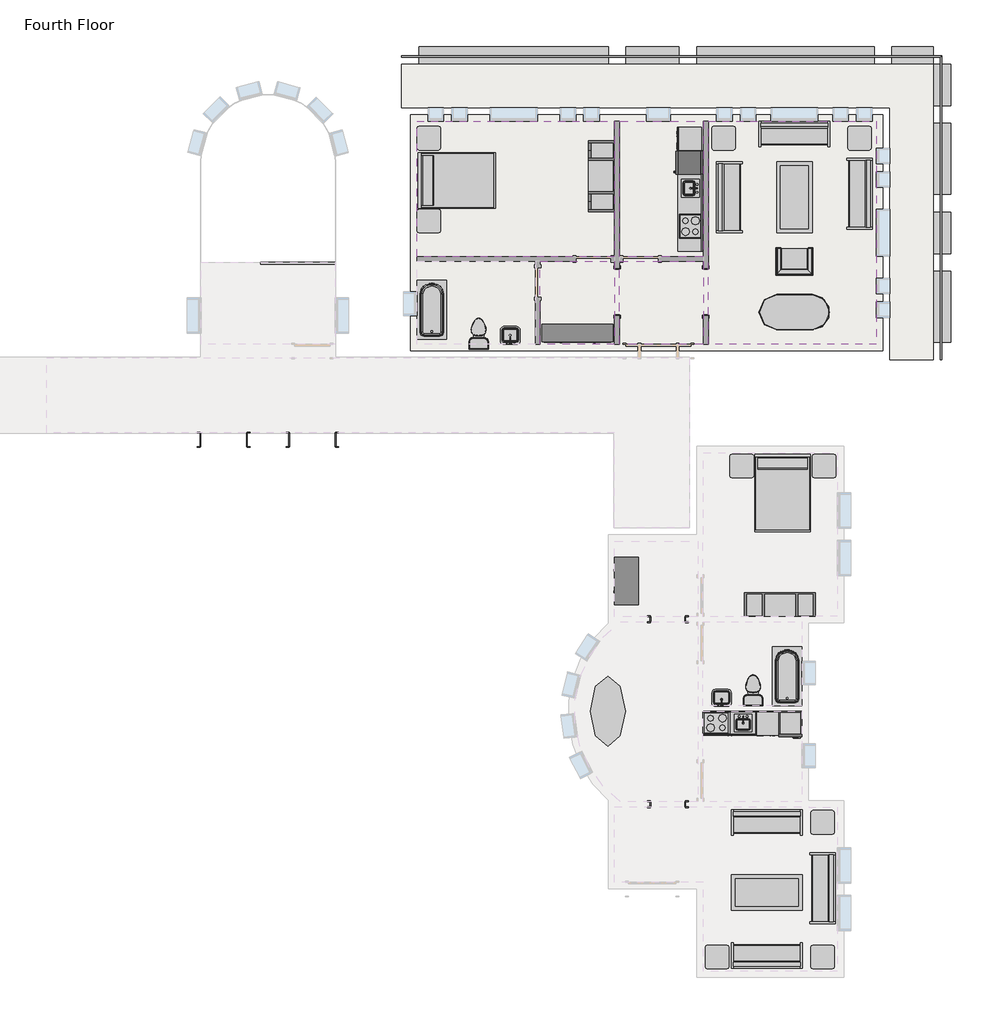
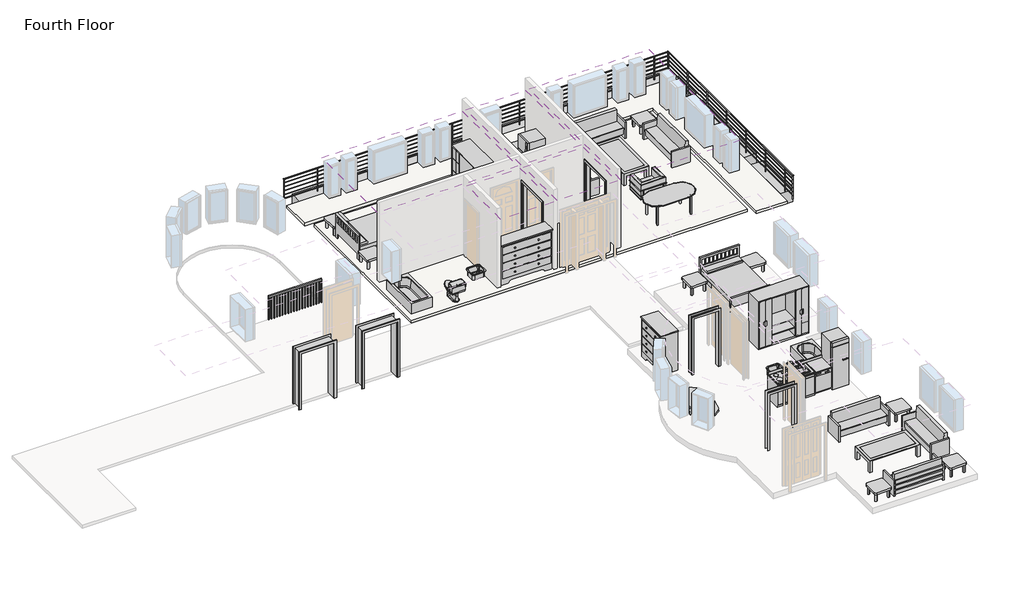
# One storey, part 2 of 2: 28 furniture elements, 14 proxies, 8 flow terminals, 5 coverings, 2 beams, 2 railings, 2 slabs.
"""IFC4 building model written with IfcOpenShell, lengths in millimetres."""

from ifc_helpers import new_model, si_unit, frame, origin, place, context, project, spatial, polyline, outline, extrude, transform, mapped, element, save
from components import proxy_dfcd9396, proxy_3c49123c, proxy_7a545507, m_cook_top_4_unit2_0615_x_500mm_249f3515, m_dishwasher_610_x_610_x_875mm_54ecfc4c, m_kitchenette_medium_1372mm_e05c6bec, m_passage_opening_cased_0915_x_2134mm_b7ef4dee, m_refrigerator_600_x_660mm_a466bf94, proxy_f44482cc, proxy_c3589814, proxy_ec3341c2, m_sink_kitchen_island_450_x_450mm_f969cf2d, m_sink_vanity_square_500_x_440mm_1e229b74, m_toilet_domestic_3d_m_toilet_domestic_3d_5cb52bd4, m_toilet_domestic_3d_m_toilet_domestic_3d_183bbd19, m_tub_rectangular_3d_m_tub_rectangular_3d_3da3e62d, flow_terminal_41332a36, flow_terminal_62a433f7, toilet_domestic_3d_toilet_domestic_3d_f7549cf7, tub_rectangular_3d_tub_rectangular_3d_15036965, furniture_096e7f55, chair_corbu_chair_corbu_2764bdef, furniture_6db689a5, furniture_7c473f12, furniture_cf0b6580, m_counter_top_w_sink_hole_600mm_depth_08c4f679, m_dresser_1220_x_1525_x_0610mm_18e1f140, m_entertainment_center_1830_x_1830_x_0610mm_f77a9b93, m_sofa_1830mm_f9e8a66b, m_table_coffee_0915_x_1830_x_0457mm_134cd960, m_table_ellipse_1800_x_900mm_fd46d5a5, m_table_end_0610_x_0160mm_cb6ea12e, furniture_a4ffab56, furniture_cd93a443, furniture_2c34a4f9, furniture_3a588284, handrail_pipe_d2b3d8b8, handrail_rectangular_e25e5a2f

model = new_model("IFC4")

# Units and contexts
model_context = context("Model", 3, world=origin())
ifc_project = project(units=[si_unit("LENGTHUNIT", "METRE", prefix="MILLI")], contexts=[model_context])

# Site, building, storey
site = spatial("IfcSite", under=ifc_project)
building = spatial("IfcBuilding", under=site)
storey = spatial("IfcBuildingStorey", under=building, Name="Fourth Floor", Elevation=9144.0)

# Beams
placement = place(None, origin())
element("IfcBeam", 1, ObjectType="Concrete-Rectangular Beam : 18 x 18", at=placement, inside=storey, context=model_context, shape_type="SweptSolid", body=[
    extrude(outline(polyline([(2093.9410437, 12198.8316867), (2093.9410437, 11741.6316867), (1027.1410437, 11741.6316867), (1027.1410437, 12198.8316867), (2093.9410437, 12198.8316867)])), frame((0.0, 0.0, 8686.8), z_axis=(0.0, 0.0, 1.0), x_axis=(1.0, 0.0, 0.0)), (0.0, 0.0, 1.0), 457.2),
    extrude(outline(polyline([(-11164.8589563, 11741.6316867), (-11164.8589563, 12198.8316867), (-6288.0589563, 12198.8316867), (-6288.0589563, 11741.6316867), (-11164.8589563, 11741.6316867)])), frame((0.0, 0.0, 8686.8), z_axis=(0.0, 0.0, 1.0), x_axis=(1.0, 0.0, 0.0)), (0.0, 0.0, 1.0), 457.2),
    extrude(outline(polyline([(569.9410437, 12198.8316867), (569.9410437, 11741.6316867), (-4002.0589563, 11741.6316867), (-4002.0589563, 12198.8316867), (569.9410437, 12198.8316867)])), frame((0.0, 0.0, 8686.8), z_axis=(0.0, 0.0, 1.0), x_axis=(1.0, 0.0, 0.0)), (0.0, 0.0, 1.0), 457.2),
    extrude(outline(polyline([(-4459.2589563, 12198.8316867), (-4459.2589563, 11741.6316867), (-5830.8589563, 11741.6316867), (-5830.8589563, 12198.8316867), (-4459.2589563, 12198.8316867)])), frame((0.0, 0.0, 8686.8), z_axis=(0.0, 0.0, 1.0), x_axis=(1.0, 0.0, 0.0)), (0.0, 0.0, 1.0), 457.2),
])
element("IfcBeam", 2, ObjectType="Concrete-Rectangular Beam : 18 x 18", at=placement, inside=storey, context=model_context, shape_type="SweptSolid", body=[
    extrude(outline(polyline([(2093.9410437, 11741.6316867), (2551.1410437, 11741.6316867), (2551.1410437, 10674.8316867), (2093.9410437, 10674.8316867), (2093.9410437, 11741.6316867)])), frame((0.0, 0.0, 8686.8), z_axis=(0.0, 0.0, 1.0), x_axis=(1.0, 0.0, 0.0)), (0.0, 0.0, 1.0), 457.2),
    extrude(outline(polyline([(2551.1410437, 4578.8316867), (2093.9410437, 4578.8316867), (2093.9410437, 6407.6316867), (2551.1410437, 6407.6316867), (2551.1410437, 4578.8316867)])), frame((0.0, 0.0, 8686.8), z_axis=(0.0, 0.0, 1.0), x_axis=(1.0, 0.0, 0.0)), (0.0, 0.0, 1.0), 457.2),
    extrude(outline(polyline([(2093.9410437, 10217.6316867), (2551.1410437, 10217.6316867), (2551.1410437, 8388.8316867), (2093.9410437, 8388.8316867), (2093.9410437, 10217.6316867)])), frame((0.0, 0.0, 8686.8), z_axis=(0.0, 0.0, 1.0), x_axis=(1.0, 0.0, 0.0)), (0.0, 0.0, 1.0), 457.2),
    extrude(outline(polyline([(2093.9410437, 7931.6316867), (2551.1410437, 7931.6316867), (2551.1410437, 6864.8316867), (2093.9410437, 6864.8316867), (2093.9410437, 7931.6316867)])), frame((0.0, 0.0, 8686.8), z_axis=(0.0, 0.0, 1.0), x_axis=(1.0, 0.0, 0.0)), (0.0, 0.0, 1.0), 457.2),
])

# Proxies
proxy_shape = proxy_dfcd9396(model_context)
element("IfcBuildingElementProxy", 3, Name="Cook Top-4 Unit2 : 22\" x 20\"", ObjectType="Cook Top-4 Unit2 : 22\" x 20\"", at=placement, inside=storey, context=model_context, shape_type="MappedRepresentation", body=[
    mapped(proxy_shape, transform((-4167.1589563, 7568.5224391, 9144.0), x_axis=(0.0, 1.0000000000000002, 0.0), y_axis=(-1.0000000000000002, 0.0, 0.0), z_axis=(0.0, 0.0, 1.0))),
])
proxy_2_shape = proxy_3c49123c(model_context)
element("IfcBuildingElementProxy", 4, Name="Dishwasher : 24\" x 24\" x 34\"", ObjectType="Dishwasher : 24\" x 24\" x 34\"", at=placement, inside=storey, context=model_context, shape_type="MappedRepresentation", body=[
    mapped(proxy_2_shape, transform((-4459.0085211, 9434.1049706, 9144.0), x_axis=(0.0, 1.0000000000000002, 0.0), y_axis=(-1.0000000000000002, 0.0, 0.0), z_axis=(0.0, 0.0, 1.0))),
])
proxy_3_shape = proxy_7a545507(model_context)
element("IfcBuildingElementProxy", 5, Name="Kitchenette - Medium : 8'6\"", ObjectType="Kitchenette - Medium : 8'6\"", at=placement, inside=storey, context=model_context, shape_type="MappedRepresentation", body=[
    mapped(proxy_3_shape, transform((-3862.3589563, 8197.4847342, 9144.0), x_axis=(0.0, 1.0000000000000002, 0.0), y_axis=(-1.0000000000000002, 0.0, 0.0), z_axis=(0.0, 0.0, 1.0))),
])
m_cook_top_4_unit2_0615_x_500mm_shape = m_cook_top_4_unit2_0615_x_500mm_249f3515(model_context)
element("IfcBuildingElementProxy", 6, Name="M_Cook Top-4 Unit2 : 0615 x 500mm", ObjectType="M_Cook Top-4 Unit2 : 0615 x 500mm", at=placement, inside=storey, context=model_context, shape_type="MappedRepresentation", body=[
    mapped(m_cook_top_4_unit2_0615_x_500mm_shape, transform((-3495.1714563, -5234.2683133, 9144.0), x_axis=(1.0, 0.0, 0.0), y_axis=(0.0, 1.0, 0.0), z_axis=(0.0, 0.0, 1.0))),
])
m_dishwasher_610_x_610_x_875mm_shape = m_dishwasher_610_x_610_x_875mm_54ecfc4c(model_context)
element("IfcBuildingElementProxy", 7, Name="M_Dishwasher : 610 x 610 x 875mm", ObjectType="M_Dishwasher : 610 x 610 x 875mm", at=placement, inside=storey, context=model_context, shape_type="MappedRepresentation", body=[
    mapped(m_dishwasher_610_x_610_x_875mm_shape, transform((-2579.6889248, -5500.9178781, 9144.0), x_axis=(1.0, 0.0, 0.0), y_axis=(0.0, 1.0, 0.0), z_axis=(0.0, 0.0, 1.0))),
])
m_kitchenette_medium_1372mm_shape = m_kitchenette_medium_1372mm_e05c6bec(model_context)
element("IfcBuildingElementProxy", 8, Name="M_Kitchenette - Medium : 1372mm", ObjectType="M_Kitchenette - Medium : 1372mm", at=placement, inside=storey, context=model_context, shape_type="MappedRepresentation", body=[
    mapped(m_kitchenette_medium_1372mm_shape, transform((-3170.9091612, -4929.2683133, 9144.0), x_axis=(1.0, 0.0, 0.0), y_axis=(0.0, 1.0, 0.0), z_axis=(0.0, 0.0, 1.0))),
])
m_passage_opening_cased_0915_x_2134mm_shape = m_passage_opening_cased_0915_x_2134mm_b7ef4dee(model_context)
element("IfcBuildingElementProxy", 9, Name="M_Passage Opening-Cased : 0915 x 2134mm", ObjectType="M_Passage Opening-Cased : 0915 x 2134mm", at=placement, inside=storey, context=model_context, shape_type="MappedRepresentation", body=[
    mapped(m_passage_opening_cased_0915_x_2134mm_shape, transform((-4759.560113, -7332.1683133, 9144.0), x_axis=(-1.0, 0.0, 0.0), y_axis=(0.0, -1.0, 0.0), z_axis=(0.0, 0.0, 1.0))),
])
element("IfcBuildingElementProxy", 10, Name="M_Passage Opening-Cased : 0915 x 2134mm", ObjectType="M_Passage Opening-Cased : 0915 x 2134mm", at=placement, inside=storey, context=model_context, shape_type="MappedRepresentation", body=[
    mapped(m_passage_opening_cased_0915_x_2134mm_shape, transform((-4759.560113, -2560.1683133, 9144.0), x_axis=(-1.0, 0.0, 0.0), y_axis=(0.0, -1.0, 0.0), z_axis=(0.0, 0.0, 1.0))),
])
m_refrigerator_600_x_660mm_shape = m_refrigerator_600_x_660mm_a466bf94(model_context)
element("IfcBuildingElementProxy", 11, Name="M_Refrigerator : 600 x 660mm", ObjectType="M_Refrigerator : 600 x 660mm", at=placement, inside=storey, context=model_context, shape_type="MappedRepresentation", body=[
    mapped(m_refrigerator_600_x_660mm_shape, transform((-1538.3703137, -5225.4834035, 9144.0), x_axis=(1.0, 0.0, 0.0), y_axis=(0.0, 1.0, 0.0), z_axis=(0.0, 0.0, 1.0))),
])
proxy_4_shape = proxy_f44482cc(model_context)
element("IfcBuildingElementProxy", 12, Name="Opening-Cased : 48\" x 84\"", ObjectType="Opening-Cased : 48\" x 84\"", at=placement, inside=storey, context=model_context, shape_type="MappedRepresentation", body=[
    mapped(proxy_4_shape, transform((-3773.4589563, 5882.4203434, 9144.0), x_axis=(0.0, 1.0, 0.0), y_axis=(-1.0, 0.0, 0.0), z_axis=(0.0, 0.0, 1.0))),
])
element("IfcBuildingElementProxy", 13, Name="Opening-Cased : 48\" x 84\"", ObjectType="Opening-Cased : 48\" x 84\"", at=placement, inside=storey, context=model_context, shape_type="MappedRepresentation", body=[
    mapped(proxy_4_shape, transform((-6059.4589563, 5866.04303, 9144.0), x_axis=(0.0, -1.0, 0.0), y_axis=(1.0, 0.0, 0.0), z_axis=(0.0, 0.0, 1.0))),
])
proxy_5_shape = proxy_c3589814(model_context)
element("IfcBuildingElementProxy", 14, Name="Opening-Cased : 48\" x 84\"", ObjectType="Opening-Cased : 48\" x 84\"", at=placement, inside=storey, context=model_context, shape_type="MappedRepresentation", body=[
    mapped(proxy_5_shape, transform((-16213.360113, 2064.2316867, 9144.0), x_axis=(-1.0, 0.0, 0.0), y_axis=(0.0, -1.0, 0.0), z_axis=(0.0, 0.0, 1.0))),
])
element("IfcBuildingElementProxy", 15, Name="Opening-Cased : 48\" x 84\"", ObjectType="Opening-Cased : 48\" x 84\"", at=placement, inside=storey, context=model_context, shape_type="MappedRepresentation", body=[
    mapped(proxy_5_shape, transform((-13927.360113, 2064.2316867, 9144.0), x_axis=(-1.0, 0.0, 0.0), y_axis=(0.0, -1.0, 0.0), z_axis=(0.0, 0.0, 1.0))),
])
proxy_6_shape = proxy_ec3341c2(model_context)
element("IfcBuildingElementProxy", 16, Name="Refrigerator : 24\" x 25\" LH", ObjectType="Refrigerator : 24\" x 25\" LH", at=placement, inside=storey, context=model_context, shape_type="MappedRepresentation", body=[
    mapped(proxy_6_shape, transform((-4212.8079278, 9200.4724391, 9144.0), x_axis=(0.0, 1.0000000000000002, 0.0), y_axis=(-1.0000000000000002, 0.0, 0.0), z_axis=(0.0, 0.0, 1.0))),
])

# Coverings
element("IfcCovering", 17, ObjectType="GWB on Mtl. Stud", at=placement, inside=storey, context=model_context, shape_type="SweptSolid", body=[
    extrude(outline(polyline([(-11217.2464563, 10270.0191867), (-6122.9589563, 10270.0191867), (-6122.9589563, 6787.0441867), (-11217.2464563, 6787.0441867), (-11217.2464563, 10270.0191867)])), frame((0.0, 0.0, 11734.8), z_axis=(0.0, 0.0, 1.0), x_axis=(1.0, 0.0, 0.0)), (0.0, 0.0, 1.0), 107.95),
])
element("IfcCovering", 18, ObjectType="GWB on Mtl. Stud", at=placement, inside=storey, context=model_context, shape_type="SweptSolid", body=[
    extrude(outline(polyline([(-5995.9589563, 6787.0441867), (-5995.9589563, 10270.0191867), (-3836.9589563, 10270.0191867), (-3836.9589563, 6787.0441867), (-5995.9589563, 6787.0441867)])), frame((0.0, 0.0, 11734.8), z_axis=(0.0, 0.0, 1.0), x_axis=(1.0, 0.0, 0.0)), (0.0, 0.0, 1.0), 107.95),
])
element("IfcCovering", 19, ObjectType="GWB on Mtl. Stud", at=placement, inside=storey, context=model_context, shape_type="SweptSolid", body=[
    extrude(outline(polyline([(-3709.9589563, 4526.4441867), (-3709.9589563, 10270.0191867), (622.3285437, 10270.0191867), (622.3285437, 4526.4441867), (-3709.9589563, 4526.4441867)])), frame((0.0, 0.0, 11734.8), z_axis=(0.0, 0.0, 1.0), x_axis=(1.0, 0.0, 0.0)), (0.0, 0.0, 1.0), 107.95),
])
element("IfcCovering", 20, ObjectType="GWB on Mtl. Stud", at=placement, inside=storey, context=model_context, shape_type="SweptSolid", body=[
    extrude(outline(polyline([(-3836.9589563, 4526.4441867), (-5995.9589563, 4526.4441867), (-5995.9589563, 6660.0441867), (-3836.9589563, 6660.0441867), (-3836.9589563, 4526.4441867)])), frame((0.0, 0.0, 11734.8), z_axis=(0.0, 0.0, 1.0), x_axis=(1.0, 0.0, 0.0)), (0.0, 0.0, 1.0), 107.95),
])
element("IfcCovering", 21, ObjectType="GWB on Mtl. Stud", at=placement, inside=storey, context=model_context, shape_type="SweptSolid", body=[
    extrude(outline(polyline([(-6122.9589563, 4526.4441867), (-8042.2464563, 4526.4441867), (-8042.2464563, 6660.0441867), (-6122.9589563, 6660.0441867), (-6122.9589563, 4526.4441867)])), frame((0.0, 0.0, 11734.8), z_axis=(0.0, 0.0, 1.0), x_axis=(1.0, 0.0, 0.0)), (0.0, 0.0, 1.0), 107.95),
])

# Flow terminals
m_sink_kitchen_island_450_x_450mm_shape = m_sink_kitchen_island_450_x_450mm_f969cf2d(model_context)
element("IfcFlowTerminal", 22, ObjectType="M_Sink Kitchen-Island : 450 x 450mm", at=placement, inside=storey, context=model_context, shape_type="MappedRepresentation", body=[
    mapped(m_sink_kitchen_island_450_x_450mm_shape, transform((-2824.8606969, -5236.6137144, 9144.0), x_axis=(1.0, 0.0, 0.0), y_axis=(0.0, 1.0, 0.0), z_axis=(0.0, 0.0, 1.0))),
])
m_sink_vanity_square_500_x_440mm_shape = m_sink_vanity_square_500_x_440mm_1e229b74(model_context)
element("IfcFlowTerminal", 23, ObjectType="M_Sink Vanity-Square : 500 x 440mm", at=placement, inside=storey, context=model_context, shape_type="MappedRepresentation", body=[
    mapped(m_sink_vanity_square_500_x_440mm_shape, transform((-3349.2572157, -4621.7229122, 9144.0), x_axis=(-1.0, 0.0, 0.0), y_axis=(0.0, -1.0, 0.0), z_axis=(0.0, 0.0, 1.0))),
])
m_toilet_domestic_3d_m_toilet_domestic_3d_shape = m_toilet_domestic_3d_m_toilet_domestic_3d_5cb52bd4(model_context)
m_toilet_domestic_3d_m_toilet_domestic_3d_2_shape = m_toilet_domestic_3d_m_toilet_domestic_3d_183bbd19(model_context)
element("IfcFlowTerminal", 24, ObjectType="M_Toilet-Domestic-3D : M_Toilet-Domestic-3D", at=placement, inside=storey, context=model_context, shape_type="MappedRepresentation", body=[
    mapped(m_toilet_domestic_3d_m_toilet_domestic_3d_shape, transform((-2552.025429, -4299.072286, 9144.0), x_axis=(-1.0, 0.0, 0.0), y_axis=(0.0, -1.0, 0.0), z_axis=(0.0, 0.0, 1.0))),
    mapped(m_toilet_domestic_3d_m_toilet_domestic_3d_2_shape, transform((-2552.025429, -4299.072286, 9144.0), x_axis=(-1.0, 0.0, 0.0), y_axis=(0.0, -1.0, 0.0), z_axis=(0.0, 0.0, 1.0))),
])
m_tub_rectangular_3d_m_tub_rectangular_3d_shape = m_tub_rectangular_3d_m_tub_rectangular_3d_3da3e62d(model_context)
element("IfcFlowTerminal", 25, ObjectType="M_Tub-Rectangular-3D : M_Tub-Rectangular-3D", at=placement, inside=storey, context=model_context, shape_type="MappedRepresentation", body=[
    mapped(m_tub_rectangular_3d_m_tub_rectangular_3d_shape, transform((-1117.5714563, -3683.1653446, 9144.0), x_axis=(0.0, 1.0, 0.0), y_axis=(-1.0, 0.0, 0.0), z_axis=(0.0, 0.0, 1.0))),
])
flow_terminal_shape = flow_terminal_41332a36(model_context)
element("IfcFlowTerminal", 26, ObjectType="Sink Kitchen-Island : 18\" x 18\"", at=placement, inside=storey, context=model_context, shape_type="MappedRepresentation", body=[
    mapped(flow_terminal_shape, transform((-4169.5043574, 8530.7331986, 9129.6), x_axis=(0.0, 1.0000000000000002, 0.0), y_axis=(-1.0000000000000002, 0.0, 0.0), z_axis=(0.0, 0.0, 1.0))),
])
flow_terminal_2_shape = flow_terminal_62a433f7(model_context)
element("IfcFlowTerminal", 27, ObjectType="Sink Vanity-Square : 20\" x 18\"", at=placement, inside=storey, context=model_context, shape_type="MappedRepresentation", body=[
    mapped(flow_terminal_2_shape, transform((-8801.2572158, 4706.5895878, 9144.0), x_axis=(-1.0, 0.0, 0.0), y_axis=(0.0, -1.0, 0.0), z_axis=(0.0, 0.0, 1.0))),
])
toilet_domestic_3d_toilet_domestic_3d_shape = toilet_domestic_3d_toilet_domestic_3d_f7549cf7(model_context)
element("IfcFlowTerminal", 28, ObjectType="Toilet-Domestic-3D : Toilet-Domestic-3D", at=placement, inside=storey, context=model_context, shape_type="MappedRepresentation", body=[
    mapped(toilet_domestic_3d_toilet_domestic_3d_shape, transform((-9629.7464563, 4894.7441867, 9144.0), x_axis=(-1.0, 0.0, 0.0), y_axis=(0.0, -1.0, 0.0), z_axis=(0.0, 0.0, 1.0))),
    mapped(m_toilet_domestic_3d_m_toilet_domestic_3d_2_shape, transform((-9629.7464563, 4894.7441867, 9144.0), x_axis=(-1.0, 0.0, 0.0), y_axis=(0.0, -1.0, 0.0), z_axis=(0.0, 0.0, 1.0))),
])
tub_rectangular_3d_tub_rectangular_3d_shape = tub_rectangular_3d_tub_rectangular_3d_15036965(model_context)
element("IfcFlowTerminal", 29, ObjectType="Tub-Rectangular-3D : Tub-Rectangular-3D", at=placement, inside=storey, context=model_context, shape_type="MappedRepresentation", body=[
    mapped(tub_rectangular_3d_tub_rectangular_3d_shape, transform((-11393.4589563, 5765.6346554, 9144.0), x_axis=(0.0, 1.0, 0.0), y_axis=(-1.0, 0.0, 0.0), z_axis=(0.0, 0.0, 1.0))),
])

# Furniture
furniture_shape = furniture_096e7f55(model_context)
element("IfcFurniture", 30, ObjectType="Bed-Shaker : Double 56\" x 78\"", at=placement, inside=storey, context=model_context, shape_type="MappedRepresentation", body=[
    mapped(furniture_shape, transform((-11172.0857802, 8763.4816867, 9144.0), x_axis=(0.0, 1.0, 0.0), y_axis=(-1.0, 0.0, 0.0), z_axis=(0.0, 0.0, 1.0))),
])
chair_corbu_chair_corbu_shape = chair_corbu_chair_corbu_2764bdef(model_context)
element("IfcFurniture", 31, ObjectType="Chair-Corbu : Chair-Corbu", at=placement, inside=storey, context=model_context, shape_type="MappedRepresentation", body=[
    mapped(chair_corbu_chair_corbu_shape, transform((-914.0851858, 7126.8212359, 9144.0), x_axis=(-1.0, 0.0, 0.0), y_axis=(0.0, -1.0, 0.0), z_axis=(0.0, 0.0, 1.0))),
])
furniture_2_shape = furniture_6db689a5(model_context)
element("IfcFurniture", 32, ObjectType="Counter Top w Sink Hole : 24\" Depth", at=placement, inside=storey, context=model_context, shape_type="MappedRepresentation", body=[
    mapped(furniture_2_shape, transform((-3862.3589563, 8121.2847342, 9129.6), x_axis=(0.0, 1.0000000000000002, 0.0), y_axis=(-1.0000000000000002, 0.0, 0.0), z_axis=(0.0, 0.0, 1.0))),
])
furniture_3_shape = furniture_7c473f12(model_context)
element("IfcFurniture", 33, ObjectType="Dresser : 72\" x 60\" x 18\"", at=placement, inside=storey, context=model_context, shape_type="MappedRepresentation", body=[
    mapped(furniture_3_shape, transform((-6806.2656965, 5181.7071408, 9144.0), x_axis=(1.0, 0.0, 0.0), y_axis=(0.0, 1.0, 0.0), z_axis=(0.0, 0.0, 1.0))),
])
furniture_4_shape = furniture_cf0b6580(model_context)
element("IfcFurniture", 34, ObjectType="Entertainment Center : 72\" x 72\" x 24\"", at=placement, inside=storey, context=model_context, shape_type="MappedRepresentation", body=[
    mapped(furniture_4_shape, transform((-6021.3589563, 8857.1441867, 9144.0), x_axis=(0.0, -1.0, 0.0), y_axis=(1.0, 0.0, 0.0), z_axis=(0.0, 0.0, 1.0))),
])
element("IfcFurniture", 35, ObjectType="M_Bed-Shaker : 1422 x 1981mm - Double", at=placement, inside=storey, context=model_context, shape_type="MappedRepresentation", body=[
    mapped(furniture_shape, transform((-1770.3214563, 1676.8316867, 9144.0), x_axis=(1.0, 0.0, 0.0), y_axis=(0.0, 1.0, 0.0), z_axis=(0.0, 0.0, 1.0))),
])
m_counter_top_w_sink_hole_600mm_depth_shape = m_counter_top_w_sink_hole_600mm_depth_08c4f679(model_context)
element("IfcFurniture", 36, ObjectType="M_Counter Top w Sink Hole : 600mm Depth", at=placement, inside=storey, context=model_context, shape_type="MappedRepresentation", body=[
    mapped(m_counter_top_w_sink_hole_600mm_depth_shape, transform((-2637.7091612, -4929.2683133, 9144.0), x_axis=(1.0, 0.0, 0.0), y_axis=(0.0, 1.0, 0.0), z_axis=(0.0, 0.0, 1.0))),
])
m_dresser_1220_x_1525_x_0610mm_shape = m_dresser_1220_x_1525_x_0610mm_18e1f140(model_context)
element("IfcFurniture", 37, ObjectType="M_Dresser : 1220 x 1525 x 0610mm", at=placement, inside=storey, context=model_context, shape_type="MappedRepresentation", body=[
    mapped(m_dresser_1220_x_1525_x_0610mm_shape, transform((-5456.0085022, -1844.3615731, 9144.0), x_axis=(0.0, -1.0, 0.0), y_axis=(1.0, 0.0, 0.0), z_axis=(0.0, 0.0, 1.0))),
])
m_entertainment_center_1830_x_1830_x_0610mm_shape = m_entertainment_center_1830_x_1830_x_0610mm_f77a9b93(model_context)
element("IfcFurniture", 38, ObjectType="M_Entertainment center : 1830 x 1830 x 0610mm", at=placement, inside=storey, context=model_context, shape_type="MappedRepresentation", body=[
    mapped(m_entertainment_center_1830_x_1830_x_0610mm_shape, transform((-1857.5714563, -1773.7683133, 9144.0), x_axis=(1.0, 0.0, 0.0), y_axis=(0.0, 1.0, 0.0), z_axis=(0.0, 0.0, 1.0))),
])
m_sofa_1830mm_shape = m_sofa_1830mm_f9e8a66b(model_context)
element("IfcFurniture", 39, ObjectType="M_Sofa : 1830mm", at=placement, inside=storey, context=model_context, shape_type="MappedRepresentation", body=[
    mapped(m_sofa_1830mm_shape, transform((-909.3255547, -9428.7978215, 9144.0), x_axis=(0.0, -1.0, 0.0), y_axis=(1.0, 0.0, 0.0), z_axis=(0.0, 0.0, 1.0))),
])
element("IfcFurniture", 40, ObjectType="M_Sofa : 1830mm", at=placement, inside=storey, context=model_context, shape_type="MappedRepresentation", body=[
    mapped(m_sofa_1830mm_shape, transform((-2268.5419481, -7946.0724117, 9144.0), x_axis=(1.0, 0.0, 0.0), y_axis=(0.0, 1.0, 0.0), z_axis=(0.0, 0.0, 1.0))),
])
element("IfcFurniture", 41, ObjectType="M_Sofa : 1830mm", at=placement, inside=storey, context=model_context, shape_type="MappedRepresentation", body=[
    mapped(m_sofa_1830mm_shape, transform((-2127.8009645, -11083.014215, 9144.0), x_axis=(-1.0, 0.0, 0.0), y_axis=(0.0, -1.0, 0.0), z_axis=(0.0, 0.0, 1.0))),
])
m_table_coffee_0915_x_1830_x_0457mm_shape = m_table_coffee_0915_x_1830_x_0457mm_134cd960(model_context)
element("IfcFurniture", 42, ObjectType="M_Table-Coffee : 0915 x 1830 x 0457mm", at=placement, inside=storey, context=model_context, shape_type="MappedRepresentation", body=[
    mapped(m_table_coffee_0915_x_1830_x_0457mm_shape, transform((-2216.437223, -9695.1293911, 9144.0), x_axis=(1.0, 0.0, 0.0), y_axis=(0.0, 1.0, 0.0), z_axis=(0.0, 0.0, 1.0))),
])
m_table_ellipse_1800_x_900mm_shape = m_table_ellipse_1800_x_900mm_fd46d5a5(model_context)
element("IfcFurniture", 43, ObjectType="M_Table-Ellipse : 1800 x 900mm", at=placement, inside=storey, context=model_context, shape_type="MappedRepresentation", body=[
    mapped(m_table_ellipse_1800_x_900mm_shape, transform((-6299.1714563, -4929.2683133, 9144.0), x_axis=(0.0, -1.0, 0.0), y_axis=(1.0, 0.0, 0.0), z_axis=(0.0, 0.0, 1.0))),
])
m_table_end_0610_x_0160mm_shape = m_table_end_0610_x_0160mm_cb6ea12e(model_context)
element("IfcFurniture", 44, ObjectType="M_Table-End : 0610 x 0160mm", at=placement, inside=storey, context=model_context, shape_type="MappedRepresentation", body=[
    mapped(m_table_end_0610_x_0160mm_shape, transform((-875.5714563, 1701.315317, 9144.0), x_axis=(0.0, -1.0, 0.0), y_axis=(1.0, 0.0, 0.0), z_axis=(0.0, 0.0, 1.0))),
])
element("IfcFurniture", 45, ObjectType="M_Table-End : 0610 x 0160mm", at=placement, inside=storey, context=model_context, shape_type="MappedRepresentation", body=[
    mapped(m_table_end_0610_x_0160mm_shape, transform((-2995.5714563, 1701.315317, 9144.0), x_axis=(0.0, -1.0, 0.0), y_axis=(1.0, 0.0, 0.0), z_axis=(0.0, 0.0, 1.0))),
])
element("IfcFurniture", 46, ObjectType="M_Table-End : 0610 x 0160mm", at=placement, inside=storey, context=model_context, shape_type="MappedRepresentation", body=[
    mapped(m_table_end_0610_x_0160mm_shape, transform((-915.5714563, -7485.434683, 9144.0), x_axis=(0.0, -1.0, 0.0), y_axis=(1.0, 0.0, 0.0), z_axis=(0.0, 0.0, 1.0))),
])
element("IfcFurniture", 47, ObjectType="M_Table-End : 0610 x 0160mm", at=placement, inside=storey, context=model_context, shape_type="MappedRepresentation", body=[
    mapped(m_table_end_0610_x_0160mm_shape, transform((-915.5714563, -10955.434683, 9144.0), x_axis=(0.0, -1.0, 0.0), y_axis=(1.0, 0.0, 0.0), z_axis=(0.0, 0.0, 1.0))),
])
element("IfcFurniture", 48, ObjectType="M_Table-End : 0610 x 0160mm", at=placement, inside=storey, context=model_context, shape_type="MappedRepresentation", body=[
    mapped(m_table_end_0610_x_0160mm_shape, transform((-3635.5714563, -10955.434683, 9144.0), x_axis=(0.0, -1.0, 0.0), y_axis=(1.0, 0.0, 0.0), z_axis=(0.0, 0.0, 1.0))),
])
furniture_5_shape = furniture_a4ffab56(model_context)
element("IfcFurniture", 49, ObjectType="Sofa : 72\"", at=placement, inside=storey, context=model_context, shape_type="MappedRepresentation", body=[
    mapped(furniture_5_shape, transform((-3017.704858, 8242.2611949, 9144.0), x_axis=(0.0, 1.0, 0.0), y_axis=(-1.0, 0.0, 0.0), z_axis=(0.0, 0.0, 1.0))),
])
element("IfcFurniture", 50, ObjectType="Sofa : 72\"", at=placement, inside=storey, context=model_context, shape_type="MappedRepresentation", body=[
    mapped(furniture_5_shape, transform((-1557.8294481, 9801.5748071, 9144.0), x_axis=(1.0, 0.0, 0.0), y_axis=(0.0, 1.0, 0.0), z_axis=(0.0, 0.0, 1.0))),
])
element("IfcFurniture", 51, ObjectType="Sofa : 72\"", at=placement, inside=storey, context=model_context, shape_type="MappedRepresentation", body=[
    mapped(furniture_5_shape, transform((42.7869453, 8470.3146785, 9144.0), x_axis=(0.0, -1.0, 0.0), y_axis=(1.0, 0.0, 0.0), z_axis=(0.0, 0.0, 1.0))),
])
furniture_6_shape = furniture_cd93a443(model_context)
element("IfcFurniture", 52, ObjectType="Table-Coffee : 36\" x 72\" x 18\"", at=placement, inside=storey, context=model_context, shape_type="MappedRepresentation", body=[
    mapped(furniture_6_shape, transform((-1392.2478785, 8294.36592, 9144.0), x_axis=(0.0, 1.0, 0.0), y_axis=(-1.0, 0.0, 0.0), z_axis=(0.0, 0.0, 1.0))),
])
furniture_7_shape = furniture_2c34a4f9(model_context)
element("IfcFurniture", 53, ObjectType="Table-Dining Oval : 36\" x 72\"", at=placement, inside=storey, context=model_context, shape_type="MappedRepresentation", body=[
    mapped(furniture_7_shape, transform((-1085.6392842, 5710.0425473, 9144.0), x_axis=(1.0, 0.0, 0.0), y_axis=(0.0, 1.0, 0.0), z_axis=(0.0, 0.0, 1.0))),
])
furniture_8_shape = furniture_3a588284(model_context)
element("IfcFurniture", 54, ObjectType="Table-End : 24\" x 24\"", at=placement, inside=storey, context=model_context, shape_type="MappedRepresentation", body=[
    mapped(furniture_8_shape, transform((-119.5925866, 9684.2316867, 9144.0), x_axis=(1.0, 0.0, 0.0), y_axis=(0.0, 1.0, 0.0), z_axis=(0.0, 0.0, 1.0))),
])
element("IfcFurniture", 55, ObjectType="Table-End : 24\" x 24\"", at=placement, inside=storey, context=model_context, shape_type="MappedRepresentation", body=[
    mapped(furniture_8_shape, transform((-11220.9800866, 7550.6316867, 9144.0), x_axis=(1.0, 0.0, 0.0), y_axis=(0.0, 1.0, 0.0), z_axis=(0.0, 0.0, 1.0))),
])
element("IfcFurniture", 56, ObjectType="Table-End : 24\" x 24\"", at=placement, inside=storey, context=model_context, shape_type="MappedRepresentation", body=[
    mapped(furniture_8_shape, transform((-11220.9800866, 9684.2316867, 9144.0), x_axis=(1.0, 0.0, 0.0), y_axis=(0.0, 1.0, 0.0), z_axis=(0.0, 0.0, 1.0))),
])
element("IfcFurniture", 57, ObjectType="Table-End : 24\" x 24\"", at=placement, inside=storey, context=model_context, shape_type="MappedRepresentation", body=[
    mapped(furniture_8_shape, transform((-3624.7925866, 9684.2316867, 9144.0), x_axis=(1.0, 0.0, 0.0), y_axis=(0.0, 1.0, 0.0), z_axis=(0.0, 0.0, 1.0))),
])

# Railings
handrail_pipe_shape = handrail_pipe_d2b3d8b8(model_context)
element("IfcRailing", 58, ObjectType="Handrail - Pipe", at=placement, inside=storey, context=model_context, shape_type="MappedRepresentation", body=[
    mapped(handrail_pipe_shape, transform((0.0, 0.0, 0.0), x_axis=(1.0, 0.0, 0.0), y_axis=(0.0, 1.0, 0.0), z_axis=(0.0, 0.0, 1.0))),
])
handrail_rectangular_shape = handrail_rectangular_e25e5a2f(model_context)
element("IfcRailing", 59, ObjectType="Handrail - Rectangular", at=placement, inside=storey, context=model_context, shape_type="MappedRepresentation", body=[
    mapped(handrail_rectangular_shape, transform((0.0, 0.0, 0.0), x_axis=(1.0, 0.0, 0.0), y_axis=(0.0, 1.0, 0.0), z_axis=(0.0, 0.0, 1.0))),
])

# Slabs
element("IfcSlab", 60, ObjectType="LW Concrete on Metal Deck", at=placement, inside=storey, context=model_context, shape_type="SweptSolid", body=[
    extrude(outline(polyline([(787.4285437, 10435.1191867), (787.4285437, 4361.3441867), (-11382.3464563, 4361.3441867), (-11382.3464563, 10435.1191867), (787.4285437, 10435.1191867)])), frame((0.0, 0.0, 9039.225), z_axis=(0.0, 0.0, 1.0), x_axis=(1.0, 0.0, 0.0)), (0.0, 0.0, 1.0), 104.775),
])
element("IfcSlab", 61, ObjectType="LW Concrete on Metal Deck", at=placement, inside=storey, context=model_context, shape_type="SweptSolid", body=[
    extrude(outline(polyline([(-11622.0589563, 10622.4441867), (-11622.0589563, 11741.6316867), (2093.9410437, 11741.6316867), (2093.9410437, 4121.6316867), (974.7535437, 4121.6316867), (974.7535437, 10622.4441867), (-11622.0589563, 10622.4441867)])), frame((0.0, 0.0, 9039.225), z_axis=(0.0, 0.0, 1.0), x_axis=(1.0, 0.0, 0.0)), (0.0, 0.0, 1.0), 104.775),
])

save(model, "model.ifc")
